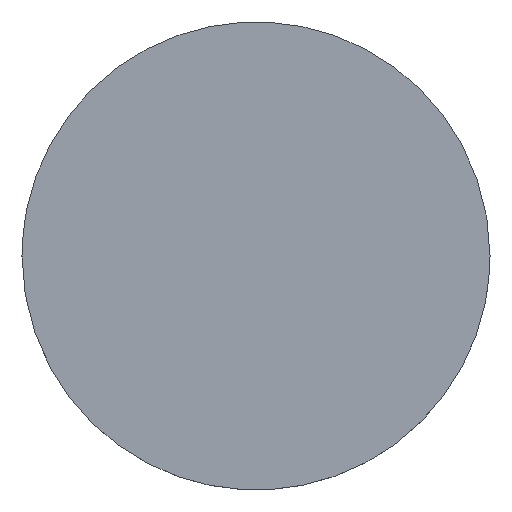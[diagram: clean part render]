
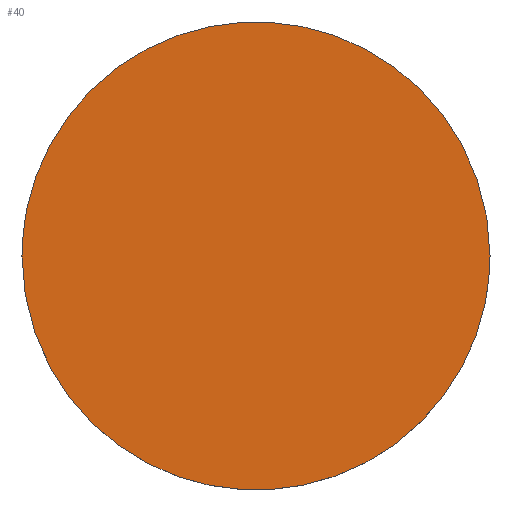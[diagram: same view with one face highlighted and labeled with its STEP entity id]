
A CAD part, top view. The second image highlights one B-rep face of the part: STEP entity #40.
In plain terms, the highlighted planar face has unit normal (0, 0, 1).
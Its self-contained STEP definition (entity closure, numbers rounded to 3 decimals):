
#40=ADVANCED_FACE('',(#79),#508,.T.);
#79=FACE_OUTER_BOUND('',#118,.T.);
#118=EDGE_LOOP('',(#174,#175));
#174=ORIENTED_EDGE('',*,*,#311,.T.);
#175=ORIENTED_EDGE('',*,*,#314,.T.);
#311=EDGE_CURVE('',#457,#459,#383,.T.);
#314=EDGE_CURVE('',#459,#457,#386,.T.);
#383=(
BOUNDED_CURVE()
B_SPLINE_CURVE(2,(#767,#768,#769,#770,#771),.UNSPECIFIED.,.F.,.F.)
B_SPLINE_CURVE_WITH_KNOTS((3,2,3),(0.,942.478,1884.956),
 .UNSPECIFIED.)
CURVE()
GEOMETRIC_REPRESENTATION_ITEM()
RATIONAL_B_SPLINE_CURVE((1.,0.707,1.,0.707,1.))
REPRESENTATION_ITEM('')
);
#386=(
BOUNDED_CURVE()
B_SPLINE_CURVE(2,(#779,#780,#781,#782,#783),.UNSPECIFIED.,.F.,.F.)
B_SPLINE_CURVE_WITH_KNOTS((3,2,3),(1884.956,2827.433,3769.911),
 .UNSPECIFIED.)
CURVE()
GEOMETRIC_REPRESENTATION_ITEM()
RATIONAL_B_SPLINE_CURVE((1.,0.707,1.,0.707,1.))
REPRESENTATION_ITEM('')
);
#457=VERTEX_POINT('',#757);
#459=VERTEX_POINT('',#759);
#508=PLANE('',#563);
#563=AXIS2_PLACEMENT_3D('',#745,#601,$);
#601=DIRECTION('',(0.,0.,1.));
#745=CARTESIAN_POINT('',(2499.202,-1960.44,493.776));
#757=CARTESIAN_POINT('',(2994.202,-1685.44,493.776));
#759=CARTESIAN_POINT('',(2554.202,-1685.44,493.776));
#767=CARTESIAN_POINT('',(2994.202,-1685.44,493.776));
#768=CARTESIAN_POINT('',(2994.202,-1465.44,493.776));
#769=CARTESIAN_POINT('',(2774.202,-1465.44,493.776));
#770=CARTESIAN_POINT('',(2554.202,-1465.44,493.776));
#771=CARTESIAN_POINT('',(2554.202,-1685.44,493.776));
#779=CARTESIAN_POINT('',(2554.202,-1685.44,493.776));
#780=CARTESIAN_POINT('',(2554.202,-1905.44,493.776));
#781=CARTESIAN_POINT('',(2774.202,-1905.44,493.776));
#782=CARTESIAN_POINT('',(2994.202,-1905.44,493.776));
#783=CARTESIAN_POINT('',(2994.202,-1685.44,493.776));
